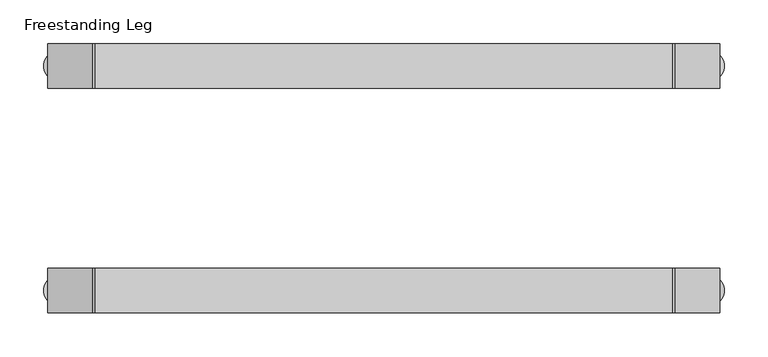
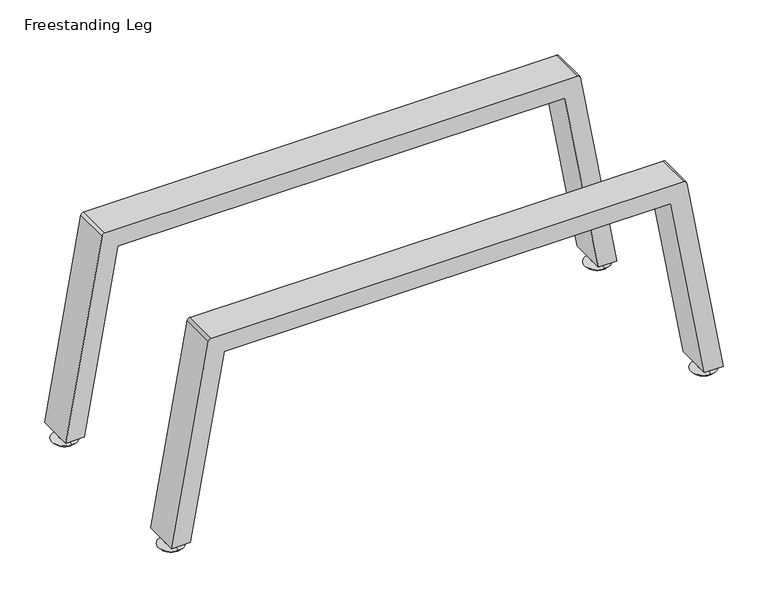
"""IFC4 building model written with IfcOpenShell, lengths in millimetres: furniture geometry, Steelcase Turnstone - Bivi - Storage - Trunk Support : Freestanding Leg."""

from ifc_helpers import new_model, si_unit, point, frame, frame_2d, origin, place, context, project, spatial, polyline, circle_curve, trimmed, segment, composite_curve, outline, extrude, source, transform, mapped, element, save
from ifc_brep_helpers import plane_surface, cylinder_surface, revolved_surface, advanced_brep


def freestanding_leg_9923712e(model_context):
    return source(origin(), model_context, "Body", "SolidModel", [
        advanced_brep(
        [(981.075, -308.496793, 44.450212), (981.075, -298.8171513, 44.450212), (981.075, -298.8171513, 13.9702766), (981.075, -308.496793, 13.9702766), (981.075, -295.6185093, 13.9702766), (981.075, -311.695435, 13.9702766), (981.075, -295.6185093, 10.160273), (981.075, -311.695435, 10.160273), (981.075, -297.7736109, 10.160273), (981.075, -309.5403333, 10.160273), (981.075, -296.3429763, 6.2296367), (981.075, -310.970968, 6.2296367), (981.075, -286.0843895, 3.4808567), (981.075, -321.2295548, 3.4808567), (981.075, -289.5652461, 0.0), (981.075, -317.7486981, 0.0), (981.075, -303.6569721, 0.0), (981.075, -303.6569721, 44.450212)],
        [
            (0, 1, circle_curve(frame((981.075, -303.6569721, 44.450212), z_axis=(0.0, 0.0, -1.0), x_axis=(0.0, 1.0, 0.0)), 4.8398209)),
            (1, 2),
            (2, 3, circle_curve(frame((981.075, -303.6569721, 13.9702766), z_axis=(0.0, 0.0, 1.0), x_axis=(0.0, 1.0, 0.0)), 4.8398209)),
            (3, 0),
            (1, 0, circle_curve(frame((981.075, -303.6569721, 44.450212), z_axis=(0.0, 0.0, -1.0), x_axis=(0.0, 1.0, 0.0)), 4.8398209)),
            (3, 2, circle_curve(frame((981.075, -303.6569721, 13.9702766), z_axis=(0.0, 0.0, 1.0), x_axis=(0.0, 1.0, 0.0)), 4.8398209)),
            (2, 4),
            (4, 5, circle_curve(frame((981.075, -303.6569721, 13.9702766), z_axis=(0.0, 0.0, 1.0), x_axis=(0.0, 1.0, 0.0)), 8.0384628)),
            (5, 3),
            (5, 4, circle_curve(frame((981.075, -303.6569721, 13.9702766), z_axis=(0.0, 0.0, 1.0), x_axis=(0.0, 1.0, 0.0)), 8.0384628)),
            (4, 6),
            (6, 7, circle_curve(frame((981.075, -303.6569721, 10.160273), z_axis=(0.0, 0.0, 1.0), x_axis=(0.0, 1.0, 0.0)), 8.0384628)),
            (7, 5),
            (7, 6, circle_curve(frame((981.075, -303.6569721, 10.160273), z_axis=(0.0, 0.0, 1.0), x_axis=(0.0, 1.0, 0.0)), 8.0384628)),
            (6, 8),
            (8, 9, circle_curve(frame((981.075, -303.6569721, 10.160273), z_axis=(0.0, 0.0, 1.0), x_axis=(0.0, 1.0, 0.0)), 5.8833612)),
            (9, 7),
            (9, 8, circle_curve(frame((981.075, -303.6569721, 10.160273), z_axis=(0.0, 0.0, 1.0), x_axis=(0.0, 1.0, 0.0)), 5.8833612)),
            (8, 10),
            (10, 11, circle_curve(frame((981.075, -303.6569721, 6.2296367), z_axis=(0.0, 0.0, 1.0), x_axis=(0.0, 1.0, 0.0)), 7.3139958)),
            (11, 9),
            (11, 10, circle_curve(frame((981.075, -303.6569721, 6.2296367), z_axis=(0.0, 0.0, 1.0), x_axis=(0.0, 1.0, 0.0)), 7.3139958)),
            (10, 12),
            (12, 13, circle_curve(frame((981.075, -303.6569721, 3.4808567), z_axis=(0.0, 0.0, 1.0), x_axis=(0.0, 1.0, 0.0)), 17.5725827)),
            (13, 11),
            (13, 12, circle_curve(frame((981.075, -303.6569721, 3.4808567), z_axis=(0.0, 0.0, 1.0), x_axis=(0.0, 1.0, 0.0)), 17.5725827)),
            (12, 14),
            (14, 15, circle_curve(frame((981.075, -303.6569721, 0.0), z_axis=(0.0, 0.0, 1.0), x_axis=(0.0, 1.0, 0.0)), 14.091726)),
            (15, 13),
            (15, 14, circle_curve(frame((981.075, -303.6569721, 0.0), z_axis=(0.0, 0.0, 1.0), x_axis=(0.0, 1.0, 0.0)), 14.091726)),
            (14, 16),
            (16, 15),
            (17, 1),
            (0, 17),
        ],
        [
            cylinder_surface(frame((981.075, -303.6569721, 44.450212), z_axis=(0.0, 0.0, 1.0), x_axis=(0.0, 1.0, 0.0)), 4.8398209),
            plane_surface(frame((981.075, -303.6569721, 13.9702766), z_axis=(0.0, 0.0, 1.0), x_axis=(0.0, 1.0, 0.0))),
            cylinder_surface(frame((981.075, -303.6569721, 44.450212), z_axis=(0.0, 0.0, 1.0), x_axis=(0.0, 1.0, 0.0)), 8.0384628),
            plane_surface(frame((981.075, -303.6569721, 10.160273), z_axis=(0.0, 0.0, -1.0), x_axis=(0.0, 1.0, 0.0))),
            revolved_surface(polyline([(981.075, -296.3429763, 6.2296367), (981.075, -297.7736109, 10.160273)]), (981.075, -303.6569721, 44.450212), (0.0, 0.0, 1.0)),
            revolved_surface(polyline([(981.075, -286.0843895, 3.4808567), (981.075, -296.3429763, 6.2296367)]), (981.075, -303.6569721, 44.450212), (0.0, 0.0, 1.0)),
            revolved_surface(polyline([(981.075, -289.5652461, 0.0), (981.075, -286.0843895, 3.4808567)]), (981.075, -303.6569721, 44.450212), (0.0, 0.0, 1.0)),
            plane_surface(frame((981.075, -303.6569721, 0.0), z_axis=(0.0, 0.0, -1.0), x_axis=(0.0, 1.0, 0.0))),
            plane_surface(frame((981.075, -303.6569721, 44.450212), z_axis=(0.0, 0.0, 1.0), x_axis=(0.0, 1.0, 0.0))),
        ],
        [
            (0, [[1, 2, 3, 4]]),
            (0, [[5, -4, 6, -2]]),
            (1, [[-3, 7, 8, 9]]),
            (1, [[-6, -9, 10, -7]]),
            (2, [[-8, 11, 12, 13]]),
            (2, [[-10, -13, 14, -11]]),
            (3, [[-12, 15, 16, 17]]),
            (3, [[-14, -17, 18, -15]]),
            (4, [[-16, 19, 20, 21]]),
            (4, [[-18, -21, 22, -19]]),
            (5, [[-20, 23, 24, 25]]),
            (5, [[-22, -25, 26, -23]]),
            (6, [[-24, 27, 28, 29]]),
            (6, [[-26, -29, 30, -27]]),
            (7, [[-28, 31, 32]]),
            (7, [[-30, -32, -31]]),
            (8, [[33, -1, 34]]),
            (8, [[-34, -5, -33]]),
        ],
    ),
        advanced_brep(
        [(981.075, -42.2772419, 13.9702766), (981.075, -51.9568836, 13.9702766), (981.075, -51.9568836, 44.450212), (981.075, -42.2772419, 44.450212), (981.075, -39.0785999, 13.9702766), (981.075, -55.1555256, 13.9702766), (981.075, -39.0785999, 10.160273), (981.075, -55.1555256, 10.160273), (981.075, -41.2337015, 10.160273), (981.075, -53.000424, 10.160273), (981.075, -39.8030669, 6.2296367), (981.075, -54.4310586, 6.2296367), (981.075, -29.5444801, 3.4808567), (981.075, -64.6896454, 3.4808567), (981.075, -33.0253368, 0.0), (981.075, -61.2087888, 0.0), (981.075, -47.1170628, 0.0), (981.075, -47.1170628, 44.450212)],
        [
            (0, 1, circle_curve(frame((981.075, -47.1170628, 13.9702766), z_axis=(0.0, 0.0, 1.0), x_axis=(0.0, -1.0, 0.0)), 4.8398209)),
            (1, 2),
            (2, 3, circle_curve(frame((981.075, -47.1170628, 44.450212), z_axis=(0.0, 0.0, -1.0), x_axis=(0.0, -1.0, 0.0)), 4.8398209)),
            (3, 0),
            (1, 0, circle_curve(frame((981.075, -47.1170628, 13.9702766), z_axis=(0.0, 0.0, 1.0), x_axis=(0.0, -1.0, 0.0)), 4.8398209)),
            (3, 2, circle_curve(frame((981.075, -47.1170628, 44.450212), z_axis=(0.0, 0.0, -1.0), x_axis=(0.0, -1.0, 0.0)), 4.8398209)),
            (4, 5, circle_curve(frame((981.075, -47.1170628, 13.9702766), z_axis=(0.0, 0.0, 1.0), x_axis=(0.0, -1.0, 0.0)), 8.0384628)),
            (5, 1),
            (0, 4),
            (5, 4, circle_curve(frame((981.075, -47.1170628, 13.9702766), z_axis=(0.0, 0.0, 1.0), x_axis=(0.0, -1.0, 0.0)), 8.0384628)),
            (6, 7, circle_curve(frame((981.075, -47.1170628, 10.160273), z_axis=(0.0, 0.0, 1.0), x_axis=(0.0, -1.0, 0.0)), 8.0384628)),
            (7, 5),
            (4, 6),
            (7, 6, circle_curve(frame((981.075, -47.1170628, 10.160273), z_axis=(0.0, 0.0, 1.0), x_axis=(0.0, -1.0, 0.0)), 8.0384628)),
            (8, 9, circle_curve(frame((981.075, -47.1170628, 10.160273), z_axis=(0.0, 0.0, 1.0), x_axis=(0.0, -1.0, 0.0)), 5.8833612)),
            (9, 7),
            (6, 8),
            (9, 8, circle_curve(frame((981.075, -47.1170628, 10.160273), z_axis=(0.0, 0.0, 1.0), x_axis=(0.0, -1.0, 0.0)), 5.8833612)),
            (10, 11, circle_curve(frame((981.075, -47.1170628, 6.2296367), z_axis=(0.0, 0.0, 1.0), x_axis=(0.0, -1.0, 0.0)), 7.3139958)),
            (11, 9),
            (8, 10),
            (11, 10, circle_curve(frame((981.075, -47.1170628, 6.2296367), z_axis=(0.0, 0.0, 1.0), x_axis=(0.0, -1.0, 0.0)), 7.3139958)),
            (12, 13, circle_curve(frame((981.075, -47.1170628, 3.4808567), z_axis=(0.0, 0.0, 1.0), x_axis=(0.0, -1.0, 0.0)), 17.5725827)),
            (13, 11),
            (10, 12),
            (13, 12, circle_curve(frame((981.075, -47.1170628, 3.4808567), z_axis=(0.0, 0.0, 1.0), x_axis=(0.0, -1.0, 0.0)), 17.5725827)),
            (14, 15, circle_curve(frame((981.075, -47.1170628, 0.0), z_axis=(0.0, 0.0, 1.0), x_axis=(0.0, -1.0, 0.0)), 14.091726)),
            (15, 13),
            (12, 14),
            (15, 14, circle_curve(frame((981.075, -47.1170628, 0.0), z_axis=(0.0, 0.0, 1.0), x_axis=(0.0, -1.0, 0.0)), 14.091726)),
            (16, 15),
            (14, 16),
            (2, 17),
            (17, 3),
        ],
        [
            cylinder_surface(frame((981.075, -47.1170628, 44.450212), z_axis=(0.0, 0.0, -1.0), x_axis=(0.0, -1.0, 0.0)), 4.8398209),
            plane_surface(frame((981.075, -47.1170628, 13.9702766), z_axis=(0.0, 0.0, 1.0), x_axis=(0.0, -1.0, 0.0))),
            cylinder_surface(frame((981.075, -47.1170628, 44.450212), z_axis=(0.0, 0.0, -1.0), x_axis=(0.0, -1.0, 0.0)), 8.0384628),
            plane_surface(frame((981.075, -47.1170628, 10.160273), z_axis=(0.0, 0.0, -1.0), x_axis=(0.0, -1.0, 0.0))),
            revolved_surface(polyline([(981.075, -53.000424, 10.160273), (981.075, -54.4310586, 6.2296367)]), (981.075, -47.1170628, 44.450212), (0.0, 0.0, -1.0)),
            revolved_surface(polyline([(981.075, -54.4310586, 6.2296367), (981.075, -64.6896454, 3.4808567)]), (981.075, -47.1170628, 44.450212), (0.0, 0.0, -1.0)),
            revolved_surface(polyline([(981.075, -64.6896454, 3.4808567), (981.075, -61.2087888, 0.0)]), (981.075, -47.1170628, 44.450212), (0.0, 0.0, -1.0)),
            plane_surface(frame((981.075, -47.1170628, 0.0), z_axis=(0.0, 0.0, -1.0), x_axis=(0.0, -1.0, 0.0))),
            plane_surface(frame((981.075, -47.1170628, 44.450212), z_axis=(0.0, 0.0, 1.0), x_axis=(0.0, -1.0, 0.0))),
        ],
        [
            (0, [[1, 2, 3, 4]]),
            (0, [[5, -4, 6, -2]]),
            (1, [[7, 8, -1, 9]]),
            (1, [[10, -9, -5, -8]]),
            (2, [[11, 12, -7, 13]]),
            (2, [[14, -13, -10, -12]]),
            (3, [[15, 16, -11, 17]]),
            (3, [[18, -17, -14, -16]]),
            (4, [[19, 20, -15, 21]]),
            (4, [[22, -21, -18, -20]]),
            (5, [[23, 24, -19, 25]]),
            (5, [[26, -25, -22, -24]]),
            (6, [[27, 28, -23, 29]]),
            (6, [[30, -29, -26, -28]]),
            (7, [[31, -27, 32]]),
            (7, [[-32, -30, -31]]),
            (8, [[-3, 33, 34]]),
            (8, [[-6, -34, -33]]),
        ],
    ),
        advanced_brep(
        [(238.7123225, -308.496793, 44.450212), (238.7123225, -298.8171513, 44.450212), (238.7123225, -298.8171513, 13.9702766), (238.7123225, -308.496793, 13.9702766), (238.7123225, -295.6185093, 13.9702766), (238.7123225, -311.695435, 13.9702766), (238.7123225, -295.6185093, 10.160273), (238.7123225, -311.695435, 10.160273), (238.7123225, -297.7736109, 10.160273), (238.7123225, -309.5403333, 10.160273), (238.7123225, -296.3429763, 6.2296367), (238.7123225, -310.970968, 6.2296367), (238.7123225, -286.0843895, 3.4808567), (238.7123225, -321.2295548, 3.4808567), (238.7123225, -289.5652461, 0.0), (238.7123225, -317.7486981, 0.0), (238.7123225, -303.6569721, 0.0), (238.7123225, -303.6569721, 44.450212)],
        [
            (0, 1, circle_curve(frame((238.7123225, -303.6569721, 44.450212), z_axis=(0.0, 0.0, -1.0), x_axis=(0.0, 1.0, 0.0)), 4.8398209)),
            (1, 2),
            (2, 3, circle_curve(frame((238.7123225, -303.6569721, 13.9702766), z_axis=(0.0, 0.0, 1.0), x_axis=(0.0, 1.0, 0.0)), 4.8398209)),
            (3, 0),
            (1, 0, circle_curve(frame((238.7123225, -303.6569721, 44.450212), z_axis=(0.0, 0.0, -1.0), x_axis=(0.0, 1.0, 0.0)), 4.8398209)),
            (3, 2, circle_curve(frame((238.7123225, -303.6569721, 13.9702766), z_axis=(0.0, 0.0, 1.0), x_axis=(0.0, 1.0, 0.0)), 4.8398209)),
            (2, 4),
            (4, 5, circle_curve(frame((238.7123225, -303.6569721, 13.9702766), z_axis=(0.0, 0.0, 1.0), x_axis=(0.0, 1.0, 0.0)), 8.0384628)),
            (5, 3),
            (5, 4, circle_curve(frame((238.7123225, -303.6569721, 13.9702766), z_axis=(0.0, 0.0, 1.0), x_axis=(0.0, 1.0, 0.0)), 8.0384628)),
            (4, 6),
            (6, 7, circle_curve(frame((238.7123225, -303.6569721, 10.160273), z_axis=(0.0, 0.0, 1.0), x_axis=(0.0, 1.0, 0.0)), 8.0384628)),
            (7, 5),
            (7, 6, circle_curve(frame((238.7123225, -303.6569721, 10.160273), z_axis=(0.0, 0.0, 1.0), x_axis=(0.0, 1.0, 0.0)), 8.0384628)),
            (6, 8),
            (8, 9, circle_curve(frame((238.7123225, -303.6569721, 10.160273), z_axis=(0.0, 0.0, 1.0), x_axis=(0.0, 1.0, 0.0)), 5.8833612)),
            (9, 7),
            (9, 8, circle_curve(frame((238.7123225, -303.6569721, 10.160273), z_axis=(0.0, 0.0, 1.0), x_axis=(0.0, 1.0, 0.0)), 5.8833612)),
            (8, 10),
            (10, 11, circle_curve(frame((238.7123225, -303.6569721, 6.2296367), z_axis=(0.0, 0.0, 1.0), x_axis=(0.0, 1.0, 0.0)), 7.3139958)),
            (11, 9),
            (11, 10, circle_curve(frame((238.7123225, -303.6569721, 6.2296367), z_axis=(0.0, 0.0, 1.0), x_axis=(0.0, 1.0, 0.0)), 7.3139958)),
            (10, 12),
            (12, 13, circle_curve(frame((238.7123225, -303.6569721, 3.4808567), z_axis=(0.0, 0.0, 1.0), x_axis=(0.0, 1.0, 0.0)), 17.5725827)),
            (13, 11),
            (13, 12, circle_curve(frame((238.7123225, -303.6569721, 3.4808567), z_axis=(0.0, 0.0, 1.0), x_axis=(0.0, 1.0, 0.0)), 17.5725827)),
            (12, 14),
            (14, 15, circle_curve(frame((238.7123225, -303.6569721, 0.0), z_axis=(0.0, 0.0, 1.0), x_axis=(0.0, 1.0, 0.0)), 14.091726)),
            (15, 13),
            (15, 14, circle_curve(frame((238.7123225, -303.6569721, 0.0), z_axis=(0.0, 0.0, 1.0), x_axis=(0.0, 1.0, 0.0)), 14.091726)),
            (14, 16),
            (16, 15),
            (17, 1),
            (0, 17),
        ],
        [
            cylinder_surface(frame((238.7123225, -303.6569721, 44.450212), z_axis=(0.0, 0.0, 1.0), x_axis=(0.0, 1.0, 0.0)), 4.8398209),
            plane_surface(frame((238.7123225, -303.6569721, 13.9702766), z_axis=(0.0, 0.0, 1.0), x_axis=(0.0, 1.0, 0.0))),
            cylinder_surface(frame((238.7123225, -303.6569721, 44.450212), z_axis=(0.0, 0.0, 1.0), x_axis=(0.0, 1.0, 0.0)), 8.0384628),
            plane_surface(frame((238.7123225, -303.6569721, 10.160273), z_axis=(0.0, 0.0, -1.0), x_axis=(0.0, 1.0, 0.0))),
            revolved_surface(polyline([(238.7123225, -296.3429763, 6.2296367), (238.7123225, -297.7736109, 10.160273)]), (238.7123225, -303.6569721, 44.450212), (0.0, 0.0, 1.0)),
            revolved_surface(polyline([(238.7123225, -286.0843895, 3.4808567), (238.7123225, -296.3429763, 6.2296367)]), (238.7123225, -303.6569721, 44.450212), (0.0, 0.0, 1.0)),
            revolved_surface(polyline([(238.7123225, -289.5652461, 0.0), (238.7123225, -286.0843895, 3.4808567)]), (238.7123225, -303.6569721, 44.450212), (0.0, 0.0, 1.0)),
            plane_surface(frame((238.7123225, -303.6569721, 0.0), z_axis=(0.0, 0.0, -1.0), x_axis=(0.0, 1.0, 0.0))),
            plane_surface(frame((238.7123225, -303.6569721, 44.450212), z_axis=(0.0, 0.0, 1.0), x_axis=(0.0, 1.0, 0.0))),
        ],
        [
            (0, [[1, 2, 3, 4]]),
            (0, [[5, -4, 6, -2]]),
            (1, [[-3, 7, 8, 9]]),
            (1, [[-6, -9, 10, -7]]),
            (2, [[-8, 11, 12, 13]]),
            (2, [[-10, -13, 14, -11]]),
            (3, [[-12, 15, 16, 17]]),
            (3, [[-14, -17, 18, -15]]),
            (4, [[-16, 19, 20, 21]]),
            (4, [[-18, -21, 22, -19]]),
            (5, [[-20, 23, 24, 25]]),
            (5, [[-22, -25, 26, -23]]),
            (6, [[-24, 27, 28, 29]]),
            (6, [[-26, -29, 30, -27]]),
            (7, [[-28, 31, 32]]),
            (7, [[-30, -32, -31]]),
            (8, [[33, -1, 34]]),
            (8, [[-34, -5, -33]]),
        ],
    ),
        extrude(outline(composite_curve([segment(polyline([(15.5772139, 225.6195271), (15.5772139, 251.4123225), (281.1342207, 298.2371877), (281.1342207, 920.9628123), (15.5772139, 967.7876775), (15.5772139, 993.5826752), (303.7745528, 942.7657086)]), True, "CONTINUOUS"), segment(trimmed(circle_curve(frame_2d((303.1946459, 939.4768933)), 3.3395506), [point((303.7745528, 942.7657086))], [point((306.5341965, 939.4768933))], False, "CARTESIAN"), True, "CONTINUOUS"), segment(polyline([(306.5341965, 939.4768933), (306.5341965, 280.2432065)]), True, "CONTINUOUS"), segment(trimmed(circle_curve(frame_2d((302.5774397, 280.2432065)), 3.9567567), [point((306.5341965, 280.2432065))], [point((303.2645233, 276.3465618))], False, "CARTESIAN"), True, "CONTINUOUS"), segment(polyline([(303.2645233, 276.3465618), (15.5772139, 225.6195271)]), True, "CONTINUOUS")], self_intersect=False)), frame((0.0, -329.0571659, 0.0), z_axis=(0.0, 1.0, 0.0), x_axis=(0.0, 0.0, 1.0)), (0.0, 0.0, 1.0), 50.8003876),
        advanced_brep(
        [(238.7123225, -42.2772419, 13.9702766), (238.7123225, -51.9568836, 13.9702766), (238.7123225, -51.9568836, 44.450212), (238.7123225, -42.2772419, 44.450212), (238.7123225, -39.0785999, 13.9702766), (238.7123225, -55.1555256, 13.9702766), (238.7123225, -39.0785999, 10.160273), (238.7123225, -55.1555256, 10.160273), (238.7123225, -41.2337015, 10.160273), (238.7123225, -53.000424, 10.160273), (238.7123225, -39.8030669, 6.2296367), (238.7123225, -54.4310586, 6.2296367), (238.7123225, -29.5444801, 3.4808567), (238.7123225, -64.6896454, 3.4808567), (238.7123225, -33.0253368, 0.0), (238.7123225, -61.2087888, 0.0), (238.7123225, -47.1170628, 0.0), (238.7123225, -47.1170628, 44.450212)],
        [
            (0, 1, circle_curve(frame((238.7123225, -47.1170628, 13.9702766), z_axis=(0.0, 0.0, 1.0), x_axis=(0.0, -1.0, 0.0)), 4.8398209)),
            (1, 2),
            (2, 3, circle_curve(frame((238.7123225, -47.1170628, 44.450212), z_axis=(0.0, 0.0, -1.0), x_axis=(0.0, -1.0, 0.0)), 4.8398209)),
            (3, 0),
            (1, 0, circle_curve(frame((238.7123225, -47.1170628, 13.9702766), z_axis=(0.0, 0.0, 1.0), x_axis=(0.0, -1.0, 0.0)), 4.8398209)),
            (3, 2, circle_curve(frame((238.7123225, -47.1170628, 44.450212), z_axis=(0.0, 0.0, -1.0), x_axis=(0.0, -1.0, 0.0)), 4.8398209)),
            (4, 5, circle_curve(frame((238.7123225, -47.1170628, 13.9702766), z_axis=(0.0, 0.0, 1.0), x_axis=(0.0, -1.0, 0.0)), 8.0384628)),
            (5, 1),
            (0, 4),
            (5, 4, circle_curve(frame((238.7123225, -47.1170628, 13.9702766), z_axis=(0.0, 0.0, 1.0), x_axis=(0.0, -1.0, 0.0)), 8.0384628)),
            (6, 7, circle_curve(frame((238.7123225, -47.1170628, 10.160273), z_axis=(0.0, 0.0, 1.0), x_axis=(0.0, -1.0, 0.0)), 8.0384628)),
            (7, 5),
            (4, 6),
            (7, 6, circle_curve(frame((238.7123225, -47.1170628, 10.160273), z_axis=(0.0, 0.0, 1.0), x_axis=(0.0, -1.0, 0.0)), 8.0384628)),
            (8, 9, circle_curve(frame((238.7123225, -47.1170628, 10.160273), z_axis=(0.0, 0.0, 1.0), x_axis=(0.0, -1.0, 0.0)), 5.8833612)),
            (9, 7),
            (6, 8),
            (9, 8, circle_curve(frame((238.7123225, -47.1170628, 10.160273), z_axis=(0.0, 0.0, 1.0), x_axis=(0.0, -1.0, 0.0)), 5.8833612)),
            (10, 11, circle_curve(frame((238.7123225, -47.1170628, 6.2296367), z_axis=(0.0, 0.0, 1.0), x_axis=(0.0, -1.0, 0.0)), 7.3139958)),
            (11, 9),
            (8, 10),
            (11, 10, circle_curve(frame((238.7123225, -47.1170628, 6.2296367), z_axis=(0.0, 0.0, 1.0), x_axis=(0.0, -1.0, 0.0)), 7.3139958)),
            (12, 13, circle_curve(frame((238.7123225, -47.1170628, 3.4808567), z_axis=(0.0, 0.0, 1.0), x_axis=(0.0, -1.0, 0.0)), 17.5725827)),
            (13, 11),
            (10, 12),
            (13, 12, circle_curve(frame((238.7123225, -47.1170628, 3.4808567), z_axis=(0.0, 0.0, 1.0), x_axis=(0.0, -1.0, 0.0)), 17.5725827)),
            (14, 15, circle_curve(frame((238.7123225, -47.1170628, 0.0), z_axis=(0.0, 0.0, 1.0), x_axis=(0.0, -1.0, 0.0)), 14.091726)),
            (15, 13),
            (12, 14),
            (15, 14, circle_curve(frame((238.7123225, -47.1170628, 0.0), z_axis=(0.0, 0.0, 1.0), x_axis=(0.0, -1.0, 0.0)), 14.091726)),
            (16, 15),
            (14, 16),
            (2, 17),
            (17, 3),
        ],
        [
            cylinder_surface(frame((238.7123225, -47.1170628, 44.450212), z_axis=(0.0, 0.0, -1.0), x_axis=(0.0, -1.0, 0.0)), 4.8398209),
            plane_surface(frame((238.7123225, -47.1170628, 13.9702766), z_axis=(0.0, 0.0, 1.0), x_axis=(0.0, -1.0, 0.0))),
            cylinder_surface(frame((238.7123225, -47.1170628, 44.450212), z_axis=(0.0, 0.0, -1.0), x_axis=(0.0, -1.0, 0.0)), 8.0384628),
            plane_surface(frame((238.7123225, -47.1170628, 10.160273), z_axis=(0.0, 0.0, -1.0), x_axis=(0.0, -1.0, 0.0))),
            revolved_surface(polyline([(238.7123225, -53.000424, 10.160273), (238.7123225, -54.4310586, 6.2296367)]), (238.7123225, -47.1170628, 44.450212), (0.0, 0.0, -1.0)),
            revolved_surface(polyline([(238.7123225, -54.4310586, 6.2296367), (238.7123225, -64.6896454, 3.4808567)]), (238.7123225, -47.1170628, 44.450212), (0.0, 0.0, -1.0)),
            revolved_surface(polyline([(238.7123225, -64.6896454, 3.4808567), (238.7123225, -61.2087888, 0.0)]), (238.7123225, -47.1170628, 44.450212), (0.0, 0.0, -1.0)),
            plane_surface(frame((238.7123225, -47.1170628, 0.0), z_axis=(0.0, 0.0, -1.0), x_axis=(0.0, -1.0, 0.0))),
            plane_surface(frame((238.7123225, -47.1170628, 44.450212), z_axis=(0.0, 0.0, 1.0), x_axis=(0.0, -1.0, 0.0))),
        ],
        [
            (0, [[1, 2, 3, 4]]),
            (0, [[5, -4, 6, -2]]),
            (1, [[7, 8, -1, 9]]),
            (1, [[10, -9, -5, -8]]),
            (2, [[11, 12, -7, 13]]),
            (2, [[14, -13, -10, -12]]),
            (3, [[15, 16, -11, 17]]),
            (3, [[18, -17, -14, -16]]),
            (4, [[19, 20, -15, 21]]),
            (4, [[22, -21, -18, -20]]),
            (5, [[23, 24, -19, 25]]),
            (5, [[26, -25, -22, -24]]),
            (6, [[27, 28, -23, 29]]),
            (6, [[30, -29, -26, -28]]),
            (7, [[31, -27, 32]]),
            (7, [[-32, -30, -31]]),
            (8, [[-3, 33, 34]]),
            (8, [[-6, -34, -33]]),
        ],
    ),
        extrude(outline(composite_curve([segment(polyline([(15.5772139, 225.6195271), (15.5772139, 251.4123225), (281.1342207, 298.2371877), (281.1342207, 920.9628123), (15.5772139, 967.7876775), (15.5772139, 993.5826752), (303.7745528, 942.7657086)]), True, "CONTINUOUS"), segment(trimmed(circle_curve(frame_2d((303.1946459, 939.4768933)), 3.3395506), [point((303.7745528, 942.7657086))], [point((306.5341965, 939.4768933))], False, "CARTESIAN"), True, "CONTINUOUS"), segment(polyline([(306.5341965, 939.4768933), (306.5341965, 280.2432065)]), True, "CONTINUOUS"), segment(trimmed(circle_curve(frame_2d((302.5774397, 280.2432065)), 3.9567567), [point((306.5341965, 280.2432065))], [point((303.2645233, 276.3465618))], False, "CARTESIAN"), True, "CONTINUOUS"), segment(polyline([(303.2645233, 276.3465618), (15.5772139, 225.6195271)]), True, "CONTINUOUS")], self_intersect=False)), frame((0.0, -72.5172565, 0.0), z_axis=(0.0, 1.0, 0.0), x_axis=(0.0, 0.0, 1.0)), (0.0, 0.0, 1.0), 50.8003876),
    ])


if __name__ == "__main__":
    model = new_model("IFC4")
    model_context = context("Model", 3, world=origin())
    ifc_project = project(units=[si_unit("LENGTHUNIT", "METRE", prefix="MILLI")], contexts=[model_context])
    site = spatial("IfcSite", under=ifc_project)
    building = spatial("IfcBuilding", under=site)
    placement = place(None, origin())
    freestanding_leg_shape = freestanding_leg_9923712e(model_context)
    element("IfcFurniture", 1, ObjectType="Steelcase Turnstone - Bivi - Storage - Trunk Support : Freestanding Leg", at=placement, inside=building, context=model_context, shape_type="MappedRepresentation", body=[
        mapped(freestanding_leg_shape, transform((0.0, 0.0, 0.0), x_axis=(1.0, 0.0, 0.0), y_axis=(0.0, 1.0, 0.0), z_axis=(0.0, 0.0, 1.0))),
    ])
    save(model, "model.ifc")
